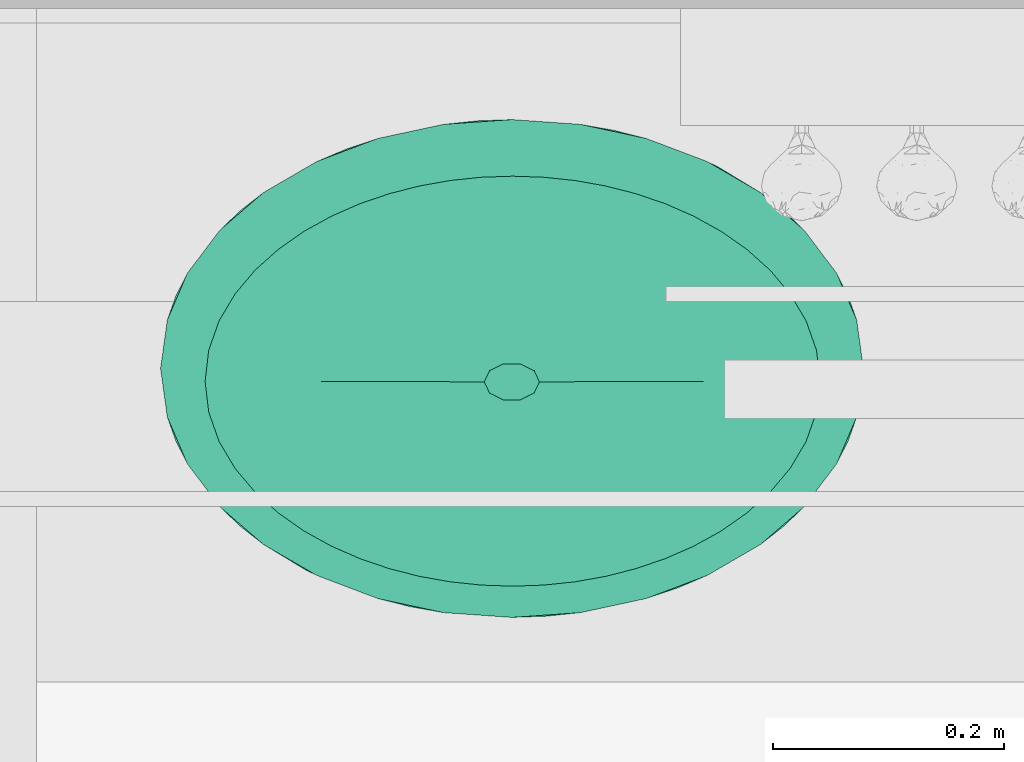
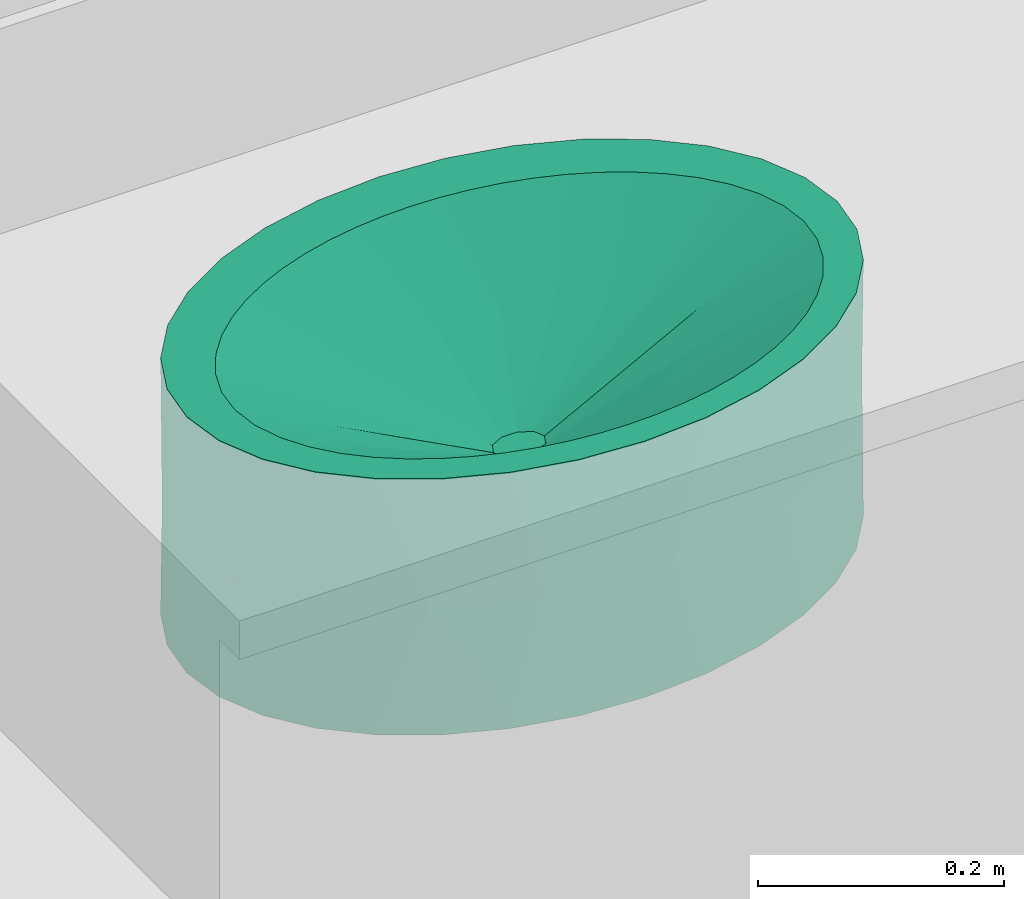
# One storey, part 54 of 81: 1 flow terminal.
"""IFC2X3 building model written with IfcOpenShell, lengths in feet."""

import ifcopenshell
import ifcopenshell.guid

model = None  # the IFC model being written
_history = None  # IfcOwnerHistory: only IFC2X3 demands one
_inside = {}  # id of a spatial element -> (the spatial element, [elements in it])
_under = {}  # id of a project, library or spatial element -> (it, [spatial elements below it])
_declared = {}  # id of a project -> (the project, [libraries it declares])
_typed = {}  # id of a type object -> (the type object, [elements of that type])
_made_of = {}  # id of a material, layer set ... -> (it, [elements and type objects made of it])


def new_model(schema):
    """Start an empty IFC model of exactly this schema.

    Asked for "IFC4X3", IfcOpenShell would pick the latest addendum, in which some entities
    have other attributes; the version numbers below select the first issue.
    IFC2X3 requires an IfcOwnerHistory on every rooted entity: one is made here for all.
    """
    global model, _history
    if schema == "IFC4X3":
        model = ifcopenshell.file(schema_version=(4, 3, 0, 0))
    else:
        model = ifcopenshell.file(schema=schema)
    _inside.clear()
    _under.clear()
    _declared.clear()
    _typed.clear()
    _made_of.clear()
    _history = None
    if model.schema == "IFC2X3":
        org = make("IfcOrganization", Name="unknown")
        user = make(
            "IfcPersonAndOrganization",
            ThePerson=make("IfcPerson", FamilyName="unknown"),
            TheOrganization=org,
        )
        app = make(
            "IfcApplication",
            ApplicationDeveloper=org,
            Version="unknown",
            ApplicationFullName="unknown",
            ApplicationIdentifier="unknown",
        )
        _history = make(
            "IfcOwnerHistory",
            OwningUser=user,
            OwningApplication=app,
            ChangeAction="ADDED",
            CreationDate=0,
        )
    return model


def make(cls, **values):
    """One entity of the class cls with the attributes given. An attribute that is None is left unset."""
    return model.create_entity(
        cls, **{name: value for name, value in values.items() if value is not None}
    )


def entity(cls, *values):
    """Any entity or typed value of the class cls, its attributes in the order of the schema. None: left unset."""
    e = model.create_entity(cls)
    for i, value in enumerate(values):
        if value is not None:
            e[i] = value
    return e


def rooted(cls, **values):
    """An entity with a GlobalId (a new one), such as an element, a storey or a relation."""
    return make(cls, GlobalId=ifcopenshell.guid.new(), OwnerHistory=_history, **values)


def si_unit(unit_type, name, prefix=None):
    """IfcSIUnit, for example si_unit("LENGTHUNIT", "METRE", prefix="MILLI")."""
    return make("IfcSIUnit", UnitType=unit_type, Prefix=prefix, Name=name)


def converted_unit(unit_type, name, factor, base, dimensions=None, offset=None):
    """IfcConversionBasedUnit, such as the inch: factor (a typed value) times the base unit."""
    return make(
        "IfcConversionBasedUnit"
        if offset is None
        else "IfcConversionBasedUnitWithOffset",
        ConversionOffset=offset,
        Dimensions=None
        if dimensions is None
        else entity("IfcDimensionalExponents", *dimensions),
        UnitType=unit_type,
        Name=name,
        ConversionFactor=make(
            "IfcMeasureWithUnit", ValueComponent=factor, UnitComponent=base
        ),
    )


def derived_unit(unit_type, elements):
    """IfcDerivedUnit: a product of units, each with its exponent."""
    return make(
        "IfcDerivedUnit",
        Elements=[
            make("IfcDerivedUnitElement", Unit=unit, Exponent=power)
            for unit, power in elements
        ],
        UnitType=unit_type,
    )


def assignment(units):
    """IfcUnitAssignment: the units of a project."""
    return None if units is None else make("IfcUnitAssignment", Units=units)


def point(xyz):
    """IfcCartesianPoint."""
    return None if xyz is None else make("IfcCartesianPoint", Coordinates=xyz)


def direction(xyz):
    """IfcDirection."""
    return None if xyz is None else make("IfcDirection", DirectionRatios=xyz)


def frame(location, z_axis=None, x_axis=None):
    """IfcAxis2Placement3D, a coordinate frame: its origin and axes. An axis left out is left unset."""
    return make(
        "IfcAxis2Placement3D",
        Location=point(location),
        Axis=direction(z_axis),
        RefDirection=direction(x_axis),
    )


def origin():
    """The frame at (0, 0, 0) with its axes left unset."""
    return frame((0.0, 0.0, 0.0))


def place(relative_to, where):
    """IfcLocalPlacement: puts the frame where relative to a parent placement (None: the world)."""
    return make(
        "IfcLocalPlacement", PlacementRelTo=relative_to, RelativePlacement=where
    )


def context(
    kind, dimensions, precision=None, world=None, true_north=None, identifier=None
):
    """IfcGeometricRepresentationContext, for example the 3D "Model" context."""
    return make(
        "IfcGeometricRepresentationContext",
        ContextIdentifier=identifier,
        ContextType=kind,
        CoordinateSpaceDimension=dimensions,
        Precision=precision,
        WorldCoordinateSystem=world,
        TrueNorth=true_north,
    )


def subcontext(parent, identifier, kind, view, scale=None):
    """IfcGeometricRepresentationSubContext, for example "Body" below "Model"."""
    return make(
        "IfcGeometricRepresentationSubContext",
        ContextIdentifier=identifier,
        ContextType=kind,
        ParentContext=parent,
        TargetScale=scale,
        TargetView=view,
    )


def project(units=None, contexts=None):
    """IfcProject with its units and contexts."""
    return rooted(
        "IfcProject",
        Name="project",
        RepresentationContexts=contexts,
        UnitsInContext=assignment(units),
    )


def spatial(cls, under=None, at=None, **own):
    """A site, building, storey or space (cls), placed at a placement, below another one or the project."""
    s = rooted(cls, ObjectPlacement=at, **own)
    if under is not None:
        _under.setdefault(under.id(), (under, []))[1].append(s)
    return s


def faces_of(points, faces, orient=None, outer=None):
    """IfcFace entities. A face is a list of loops; a loop is a list of indices into points, from 0.

    orient and outer hold one flag for each loop. By default every Orientation is true, the
    first loop of a face is its IfcFaceOuterBound and the others are IfcFaceBound.
    """
    made = []
    for i, loops in enumerate(faces):
        bounds = []
        for j, loop in enumerate(loops):
            is_outer = j == 0 if outer is None else outer[i][j]
            bounds.append(
                make(
                    "IfcFaceOuterBound" if is_outer else "IfcFaceBound",
                    Bound=make("IfcPolyLoop", Polygon=[points[k] for k in loop]),
                    Orientation=True if orient is None else orient[i][j],
                )
            )
        made.append(make("IfcFace", Bounds=bounds))
    return made


def faceted_brep(points, faces, orient=None, outer=None, voids=None):
    """IfcFacetedBrep: a solid bounded by flat faces; with voids (closed shells), ...WithVoids."""
    shared = [point(p) for p in points]
    hull = make("IfcClosedShell", CfsFaces=faces_of(shared, faces, orient, outer))
    if voids is None:
        return make("IfcFacetedBrep", Outer=hull)
    return make(
        "IfcFacetedBrepWithVoids",
        Outer=hull,
        Voids=[
            make(cls, CfsFaces=faces_of(shared, fs, o, b)) for cls, fs, o, b in voids
        ],
    )


def shape(context_of_items, identifier, shape_type, items):
    """IfcShapeRepresentation: the items that make up one representation, for example the "Body"."""
    return make(
        "IfcShapeRepresentation",
        ContextOfItems=context_of_items,
        RepresentationIdentifier=identifier,
        RepresentationType=shape_type,
        Items=items,
    )


def source(mapping_origin, context_of_items, identifier, shape_type, items):
    """IfcRepresentationMap: a shape defined once, which mapped items show again and again."""
    return make(
        "IfcRepresentationMap",
        MappingOrigin=mapping_origin,
        MappedRepresentation=shape(context_of_items, identifier, shape_type, items),
    )


def transform(
    local_origin,
    x_axis=None,
    y_axis=None,
    z_axis=None,
    scale=None,
    scale2=None,
    scale3=None,
    uniform=True,
):
    """IfcCartesianTransformationOperator3D, or its non-uniform kind. x_axis, y_axis, z_axis: its Axis1, 2, 3."""
    if uniform:
        return make(
            "IfcCartesianTransformationOperator3D",
            Axis1=direction(x_axis),
            Axis2=direction(y_axis),
            LocalOrigin=point(local_origin),
            Scale=scale,
            Axis3=direction(z_axis),
        )
    return make(
        "IfcCartesianTransformationOperator3DnonUniform",
        Axis1=direction(x_axis),
        Axis2=direction(y_axis),
        LocalOrigin=point(local_origin),
        Scale=scale,
        Axis3=direction(z_axis),
        Scale2=scale2,
        Scale3=scale3,
    )


def mapped(mapping_source, mapping_target):
    """IfcMappedItem: shows the shape of a source again, moved by a transform."""
    return make(
        "IfcMappedItem", MappingSource=mapping_source, MappingTarget=mapping_target
    )


def material(Name=None, Category=None):
    """IfcMaterial."""
    return make("IfcMaterial", Name=Name, Category=Category)


def made_of(thing, what):
    """Note that an element or type object is made of a material, layer set ...; save() writes the relation."""
    if what is not None:
        _made_of.setdefault(what.id(), (what, []))[1].append(thing)
    return thing


def type_object(cls, material=None, **own):
    """A type object (cls), such as IfcWallType, which elements share."""
    return made_of(rooted(cls, **own), material)


def type_shapes(of_type, sources):
    """Give a type object the sources (RepresentationMaps) that its elements show as mapped items."""
    of_type.RepresentationMaps = sources


def element(
    cls,
    number,
    at=None,
    inside=None,
    cuts=None,
    type_object=None,
    material=None,
    context=None,
    identifier="Body",
    shape_type=None,
    held_by="IfcProductDefinitionShape",
    body=None,
    shapes=None,
    **own,
):
    """One element of the class cls, such as IfcWall. Its Tag is "e" and its number.

    at: its placement. inside: the storey or other place that contains it. cuts: it is an
    opening in that element (IfcRelVoidsElement). A single representation is given by context,
    identifier, shape_type and body (its items); several are given by shapes. held_by: the class
    of the entity that holds the representations. save() writes the other relations.
    """
    e = rooted(cls, Tag="e%d" % number, ObjectPlacement=at, **own)
    if body is not None:
        shapes = [shape(context, identifier, shape_type, body)]
    if shapes is not None:
        e.Representation = make(held_by, Representations=shapes)
    if inside is not None:
        _inside.setdefault(inside.id(), (inside, []))[1].append(e)
    if cuts is not None:
        rooted(
            "IfcRelVoidsElement", RelatingBuildingElement=cuts, RelatedOpeningElement=e
        )
    if type_object is not None:
        _typed.setdefault(type_object.id(), (type_object, []))[1].append(e)
    return made_of(e, material)


def aggregate(whole, parts):
    """IfcRelAggregates: a whole, such as a stair, and the parts it consists of."""
    return rooted("IfcRelAggregates", RelatingObject=whole, RelatedObjects=parts)


def save(model, path):
    """Write the relations noted so far, then the file.

    IfcRelAggregates (storeys below a building ...), IfcRelContainedInSpatialStructure (elements
    in a storey), IfcRelDefinesByType, IfcRelAssociatesMaterial and IfcRelDeclares: one each for
    every whole, place, type object, material and project.
    """
    for whole, parts in _under.values():
        aggregate(whole, parts)
    for where, things in _inside.values():
        rooted(
            "IfcRelContainedInSpatialStructure",
            RelatedElements=things,
            RelatingStructure=where,
        )
    for kind, things in _typed.values():
        rooted("IfcRelDefinesByType", RelatedObjects=things, RelatingType=kind)
    for what, things in _made_of.values():
        rooted("IfcRelAssociatesMaterial", RelatedObjects=things, RelatingMaterial=what)
    for by, libraries in _declared.values():
        rooted("IfcRelDeclares", RelatingContext=by, RelatedDefinitions=libraries)
    model.write(path)


model = new_model("IFC2X3")

# Units and contexts
model_context = context("Model", 3, precision=0.0001, world=origin(), true_north=direction((6.12303176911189e-17, 1.0)))
body_context = subcontext(model_context, "Body", "Model", "MODEL_VIEW")
ifc_project = project(units=[converted_unit("LENGTHUNIT", "FOOT", entity("IfcRatioMeasure", 0.3048), si_unit("LENGTHUNIT", "METRE"), dimensions=[1, 0, 0, 0, 0, 0, 0]), converted_unit("AREAUNIT", "SQUARE FOOT", entity("IfcRatioMeasure", 0.09290304), si_unit("AREAUNIT", "SQUARE_METRE"), dimensions=[2, 0, 0, 0, 0, 0, 0]), converted_unit("VOLUMEUNIT", "CUBIC FOOT", entity("IfcRatioMeasure", 0.028316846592), si_unit("VOLUMEUNIT", "CUBIC_METRE"), dimensions=[3, 0, 0, 0, 0, 0, 0]), converted_unit("PLANEANGLEUNIT", "DEGREE", entity("IfcRatioMeasure", 0.0174532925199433), si_unit("PLANEANGLEUNIT", "RADIAN"), dimensions=[0, 0, 0, 0, 0, 0, 0]), si_unit("MASSUNIT", "GRAM", prefix="KILO"), derived_unit("MASSDENSITYUNIT", [(si_unit("MASSUNIT", "GRAM", prefix="KILO"), 1), (si_unit("LENGTHUNIT", "METRE"), -3)]), derived_unit("MOMENTOFINERTIAUNIT", [(si_unit("LENGTHUNIT", "METRE"), 4)]), si_unit("TIMEUNIT", "SECOND"), si_unit("FREQUENCYUNIT", "HERTZ"), si_unit("THERMODYNAMICTEMPERATUREUNIT", "DEGREE_CELSIUS"), derived_unit("THERMALTRANSMITTANCEUNIT", [(si_unit("MASSUNIT", "GRAM", prefix="KILO"), 1), (si_unit("THERMODYNAMICTEMPERATUREUNIT", "KELVIN"), -1), (si_unit("TIMEUNIT", "SECOND"), -3)]), derived_unit("VOLUMETRICFLOWRATEUNIT", [(si_unit("LENGTHUNIT", "METRE"), 3), (si_unit("TIMEUNIT", "SECOND"), -1)]), si_unit("ELECTRICCURRENTUNIT", "AMPERE"), si_unit("ELECTRICVOLTAGEUNIT", "VOLT"), si_unit("POWERUNIT", "WATT"), si_unit("FORCEUNIT", "NEWTON"), si_unit("ILLUMINANCEUNIT", "LUX"), si_unit("LUMINOUSFLUXUNIT", "LUMEN"), si_unit("LUMINOUSINTENSITYUNIT", "CANDELA"), derived_unit("USERDEFINED", [(si_unit("MASSUNIT", "GRAM", prefix="KILO"), -1), (si_unit("LENGTHUNIT", "METRE"), -2), (si_unit("TIMEUNIT", "SECOND"), 3), (si_unit("LUMINOUSFLUXUNIT", "LUMEN"), 1)]), derived_unit("LINEARVELOCITYUNIT", [(si_unit("LENGTHUNIT", "METRE"), 1), (si_unit("TIMEUNIT", "SECOND"), -1)]), si_unit("PRESSUREUNIT", "PASCAL"), derived_unit("USERDEFINED", [(si_unit("LENGTHUNIT", "METRE"), -2), (si_unit("MASSUNIT", "GRAM", prefix="KILO"), 1), (si_unit("TIMEUNIT", "SECOND"), -2)]), derived_unit("LINEARFORCEUNIT", [(si_unit("MASSUNIT", "GRAM", prefix="KILO"), 1), (si_unit("LENGTHUNIT", "METRE"), 1), (si_unit("TIMEUNIT", "SECOND"), -2), (si_unit("LENGTHUNIT", "METRE"), -1)]), derived_unit("PLANARFORCEUNIT", [(si_unit("MASSUNIT", "GRAM", prefix="KILO"), 1), (si_unit("LENGTHUNIT", "METRE"), 1), (si_unit("TIMEUNIT", "SECOND"), -2), (si_unit("LENGTHUNIT", "METRE"), -2)])], contexts=[model_context])

# Site, building, storey
site_placement = place(None, origin())
site = spatial("IfcSite", under=ifc_project, at=site_placement, Name="Default", CompositionType="ELEMENT")
building_placement = place(site_placement, origin())
building = spatial("IfcBuilding", under=site, at=building_placement, CompositionType="ELEMENT")
storey_placement = place(building_placement, origin())
storey = spatial("IfcBuildingStorey", under=building, at=storey_placement, Name="First floor", CompositionType="ELEMENT", Elevation=0.0)

# Flow terminal
ifc_material = material(Name="Default New Material")
distribution_element_type = type_object("IfcDistributionElementType", Name="Plumbing Fixtures 2:Plumbing Fixtures 2", material=ifc_material)
shared_shape = source(origin(), body_context, "Body", "Brep", [
    faceted_brep([(0.62255040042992, 1.36798183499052, 0.0), (0.810143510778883, 1.40829007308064, 0.0), (1.00523383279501, 1.42190049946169, 0.0), (1.20032415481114, 1.40829007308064, 0.0), (1.3879172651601, 1.36798183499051, 0.0), (1.56080406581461, 1.30252480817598, 0.0), (1.71234061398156, 1.21443446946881, 0.0), (1.83670344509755, 1.10709608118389, 0.0), (1.92911336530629, 0.984634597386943, 0.0), (1.98601911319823, 0.851756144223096, 0.0), (2.005233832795, 0.713567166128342, 0.0), (1.98601911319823, 0.575378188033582, 0.0), (1.92911336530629, 0.442499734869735, 0.0), (1.83670344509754, 0.320038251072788, 0.0), (1.71234061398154, 0.212699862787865, 0.0), (1.5608040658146, 0.124609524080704, 0.0), (1.38791726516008, 0.0591524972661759, 0.0), (1.20032415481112, 0.0188442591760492, 0.0), (1.00523383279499, 0.00523383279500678, 0.0), (0.810143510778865, 0.0188442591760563, 0.0), (0.622550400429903, 0.059152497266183, 0.0), (0.449663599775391, 0.124609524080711, 0.0), (0.298127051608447, 0.212699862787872, 0.0), (0.17376422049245, 0.320038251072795, 0.0), (0.0813543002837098, 0.442499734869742, 0.0), (0.0244485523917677, 0.575378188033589, 0.0), (0.00523383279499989, 0.71356716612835, 0.0), (0.0244485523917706, 0.85175614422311, 0.0), (0.0813543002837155, 0.984634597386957, 0.0), (0.173764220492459, 1.1070960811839, 0.0), (0.298127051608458, 1.21443446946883, 0.0), (0.449663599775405, 1.30252480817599, 0.0), (0.62255040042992, 1.36798183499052, 0.833333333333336), (0.449663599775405, 1.30252480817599, 0.833333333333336), (0.572233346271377, 1.18240521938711, 0.833333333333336), (0.656180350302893, 1.21102165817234, 0.833333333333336), (0.742212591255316, 1.23298075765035, 0.833333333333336), (0.810143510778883, 1.40829007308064, 0.833333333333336), (0.490754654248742, 1.14668263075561, 0.833333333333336), (0.413002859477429, 1.10354624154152, 0.833333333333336), (0.298127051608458, 1.21443446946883, 0.833333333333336), (0.340224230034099, 1.05256798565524, 0.833333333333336), (0.173764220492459, 1.1070960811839, 0.833333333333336), (0.274102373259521, 0.993305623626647, 0.833333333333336), (0.216961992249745, 0.925488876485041, 0.833333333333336), (0.0813543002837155, 0.984634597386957, 0.833333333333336), (0.171783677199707, 0.849218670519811, 0.833333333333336), (0.0244485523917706, 0.85175614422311, 0.833333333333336), (0.142233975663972, 0.765467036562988, 0.833333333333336), (0.005233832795, 0.71356716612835, 0.833333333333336), (0.131922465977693, 0.677509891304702, 0.833333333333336), (0.0244485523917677, 0.575378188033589, 0.833333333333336), (0.142234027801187, 0.589552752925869, 0.833333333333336), (0.0813543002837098, 0.442499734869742, 0.833333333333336), (0.171783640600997, 0.505801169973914, 0.833333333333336), (0.216962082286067, 0.429530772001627, 0.833333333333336), (0.17376422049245, 0.320038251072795, 0.833333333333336), (0.274102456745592, 0.361714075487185, 0.833333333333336), (0.298127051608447, 0.212699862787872, 0.833333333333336), (0.340224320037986, 0.302451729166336, 0.833333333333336), (0.413002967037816, 0.251473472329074, 0.833333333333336), (0.449663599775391, 0.124609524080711, 0.833333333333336), (0.490754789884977, 0.208337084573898, 0.833333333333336), (0.572233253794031, 0.172614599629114, 0.833333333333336), (0.622550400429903, 0.059152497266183, 0.833333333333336), (0.656180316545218, 0.143998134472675, 0.833333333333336), (0.742212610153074, 0.122039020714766, 0.833333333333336), (0.810143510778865, 0.0188442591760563, 0.833333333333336), (0.829716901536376, 0.106501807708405, 0.833333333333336), (0.91813413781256, 0.0972510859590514, 0.833333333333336), (1.00523383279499, 0.00523383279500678, 0.833333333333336), (1.00692896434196, 0.0941765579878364, 0.833333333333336), (1.09574238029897, 0.097253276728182, 0.833333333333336), (1.20032415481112, 0.0188442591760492, 0.833333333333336), (1.18414574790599, 0.106504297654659, 0.833333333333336), (1.27161446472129, 0.122035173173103, 0.833333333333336), (1.38791726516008, 0.0591524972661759, 0.833333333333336), (1.35761304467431, 0.143982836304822, 0.833333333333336), (1.44167917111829, 0.172640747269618, 0.833333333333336), (1.5608040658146, 0.124609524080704, 0.833333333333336), (1.52312085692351, 0.208352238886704, 0.833333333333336), (1.60083738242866, 0.251470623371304, 0.833333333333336), (1.71234061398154, 0.212699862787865, 0.833333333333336), (1.67359255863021, 0.302429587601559, 0.833333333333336), (1.73968720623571, 0.361657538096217, 0.833333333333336), (1.83670344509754, 0.320038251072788, 0.833333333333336), (1.79680016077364, 0.429415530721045, 0.833333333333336), (1.92911336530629, 0.442499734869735, 0.833333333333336), (1.84209760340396, 0.50587792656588, 0.833333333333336), (1.98601911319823, 0.575378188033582, 0.833333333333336), (1.87161126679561, 0.589554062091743, 0.833333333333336), (1.88192246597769, 0.677509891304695, 0.833333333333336), (2.005233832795, 0.713567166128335, 0.833333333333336), (1.87161121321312, 0.765465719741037, 0.833333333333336), (1.98601911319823, 0.851756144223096, 0.833333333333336), (1.8420976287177, 0.849141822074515, 0.833333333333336), (1.92911336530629, 0.984634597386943, 0.833333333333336), (1.79680004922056, 0.925604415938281, 0.833333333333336), (1.83670344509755, 1.10709608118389, 0.833333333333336), (1.73968710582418, 0.993362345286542, 0.833333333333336), (1.6735924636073, 1.05259026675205, 0.833333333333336), (1.71234061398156, 1.21443446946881, 0.833333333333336), (1.60083728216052, 1.10354922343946, 0.833333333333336), (1.52312073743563, 1.14666760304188, 0.833333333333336), (1.56080406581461, 1.30252480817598, 0.833333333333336), (1.44167902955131, 1.18237908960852, 0.833333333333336), (1.3879172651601, 1.36798183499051, 0.833333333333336), (1.35761309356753, 1.21103693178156, 0.833333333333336), (1.27161446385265, 1.23298460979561, 0.833333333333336), (1.20032415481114, 1.40829007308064, 0.833333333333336), (1.18414571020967, 1.24851549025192, 0.833333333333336), (1.09574232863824, 1.25776650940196, 0.833333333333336), (1.00523383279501, 1.42190049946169, 0.833333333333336), (0.91813407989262, 1.2577686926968, 0.833333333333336), (1.00692892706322, 1.26084322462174, 0.833333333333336), (0.829716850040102, 1.24851796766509, 0.833333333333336), (0.005233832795, 0.71356716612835, 0.40450545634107), (0.00523383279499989, 0.71356716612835, 0.416666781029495), (0.232223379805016, 1.16292907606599, 0.416666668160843), (0.0482934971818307, 0.919185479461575, 0.416666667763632), (1.96217416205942, 0.919185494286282, 0.416666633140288), (2.005233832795, 0.713567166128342, 0.40450545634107), (0.533837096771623, 1.33826139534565, 0.416666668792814), (1.77824430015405, 1.16292906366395, 0.416666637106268), (1.29551851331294, 1.39139990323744, 0.416666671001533), (1.59500312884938, 1.2855971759, 0.416666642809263), (0.907216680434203, 1.41848968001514, 0.416666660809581), (2.005233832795, 0.713567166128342, 0.416666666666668), (1.77824428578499, 0.264205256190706, 0.416666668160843), (1.96217416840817, 0.507948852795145, 0.416666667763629), (0.0482935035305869, 0.507948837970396, 0.416666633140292), (1.47663056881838, 0.088872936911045, 0.416666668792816), (0.232223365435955, 0.264205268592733, 0.416666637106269), (0.714949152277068, 0.0357344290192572, 0.416666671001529), (0.415464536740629, 0.141537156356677, 0.416666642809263), (1.1032509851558, 0.00864465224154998, 0.416666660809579), (0.980543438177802, 0.726801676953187, 0.416666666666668), (0.960916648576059, 0.717028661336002, 0.416666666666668), (0.941289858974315, 0.70725564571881, 0.416666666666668), (0.933793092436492, 0.691442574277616, 0.416666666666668), (0.926296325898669, 0.675629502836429, 0.416666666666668), (0.933793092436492, 0.659816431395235, 0.416666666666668), (0.941289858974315, 0.644003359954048, 0.416666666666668), (0.960916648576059, 0.634230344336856, 0.416666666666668), (0.980543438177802, 0.624457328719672, 0.416666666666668), (1.00480348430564, 0.624457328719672, 0.416666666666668), (1.02906353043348, 0.624457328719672, 0.416666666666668), (1.04869032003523, 0.634230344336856, 0.416666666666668), (1.06831710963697, 0.644003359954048, 0.416666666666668), (1.07581387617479, 0.659816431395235, 0.416666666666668), (1.08331064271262, 0.675629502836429, 0.416666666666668), (1.07581387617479, 0.691442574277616, 0.416666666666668), (1.06831710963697, 0.70725564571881, 0.416666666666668), (1.04869032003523, 0.717028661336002, 0.416666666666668), (1.02906353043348, 0.726801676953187, 0.416666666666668), (1.00480348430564, 0.726801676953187, 0.416666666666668), (1.210263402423, 0.404423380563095, 0.614292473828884), (0.886430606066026, 0.370374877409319, 0.623445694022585), (1.07424285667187, 0.378437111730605, 0.611667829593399), (0.74894539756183, 0.411698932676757, 0.623214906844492), (1.33036610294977, 0.468617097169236, 0.61140968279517), (0.621909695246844, 0.485676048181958, 0.626642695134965), (1.44762968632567, 0.561563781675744, 0.623997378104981), (0.562221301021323, 0.564349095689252, 0.624112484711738), (1.57828707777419, 0.676794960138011, 0.674915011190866), (0.43394633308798, 0.676794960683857, 0.674915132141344), (0.433284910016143, 0.67679652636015, 0.675262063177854), (1.57895216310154, 0.676796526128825, 0.675262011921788), (0.801361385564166, 0.94861756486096, 0.614289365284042), (1.12527864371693, 0.982748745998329, 0.623444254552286), (0.937358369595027, 0.974590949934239, 0.611673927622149), (1.26279374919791, 0.94141818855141, 0.623219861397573), (0.68121850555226, 0.884389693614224, 0.611405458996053), (1.3897973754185, 0.867493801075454, 0.626635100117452), (0.564104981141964, 0.791548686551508, 0.623982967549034), (1.44950876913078, 0.788802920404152, 0.62412469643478)], [[[0, 1, 2, 3, 4, 5, 6, 7, 8, 9, 10, 11, 12, 13, 14, 15, 16, 17, 18, 19, 20, 21, 22, 23, 24, 25, 26, 27, 28, 29, 30, 31]], [[32, 33, 34]], [[34, 35, 32]], [[32, 35, 36]], [[37, 32, 36]], [[38, 34, 33]], [[33, 39, 38]], [[39, 33, 40]], [[40, 41, 39]], [[40, 42, 41]], [[43, 41, 42]], [[44, 43, 42]], [[42, 45, 44]], [[45, 46, 44]], [[45, 47, 46]], [[47, 48, 46]], [[48, 47, 49]], [[48, 49, 50]], [[50, 49, 51]], [[52, 50, 51]], [[53, 52, 51]], [[53, 54, 52]], [[54, 53, 55]], [[55, 53, 56]], [[57, 55, 56]], [[56, 58, 57]], [[57, 58, 59]], [[59, 58, 60]], [[61, 60, 58]], [[60, 61, 62]], [[61, 63, 62]], [[63, 61, 64]], [[63, 64, 65]], [[65, 64, 66]], [[64, 67, 66]], [[68, 66, 67]], [[67, 69, 68]], [[69, 67, 70]], [[69, 70, 71]], [[71, 70, 72]], [[72, 70, 73]], [[72, 73, 74]], [[75, 74, 73]], [[75, 73, 76]], [[76, 77, 75]], [[76, 78, 77]], [[76, 79, 78]], [[79, 80, 78]], [[79, 81, 80]], [[82, 81, 79]], [[82, 83, 81]], [[83, 82, 84]], [[84, 82, 85]], [[86, 84, 85]], [[86, 85, 87]], [[87, 88, 86]], [[89, 88, 87]], [[88, 89, 90]], [[91, 90, 89]], [[91, 89, 92]], [[91, 92, 93]], [[93, 92, 94]], [[93, 94, 95]], [[96, 95, 94]], [[97, 95, 96]], [[96, 98, 97]], [[99, 97, 98]], [[100, 99, 98]], [[100, 98, 101]], [[100, 101, 102]], [[102, 101, 103]], [[101, 104, 103]], [[103, 104, 105]], [[104, 106, 105]], [[105, 106, 107]], [[106, 108, 107]], [[109, 108, 106]], [[110, 108, 109]], [[111, 110, 109]], [[112, 111, 109]], [[112, 37, 113]], [[112, 113, 114]], [[111, 112, 114]], [[36, 115, 37]], [[115, 113, 37]], [[27, 26, 116, 117]], [[117, 49, 47]], [[118, 119, 45, 42]], [[120, 94, 121]], [[40, 33, 122, 118]], [[123, 101, 98]], [[112, 109, 124]], [[124, 109, 106]], [[106, 104, 125]], [[125, 124, 106]], [[126, 3, 2]], [[101, 123, 125]], [[96, 120, 123, 98]], [[112, 124, 126]], [[120, 8, 7, 123]], [[121, 10, 9]], [[94, 92, 127, 121]], [[120, 96, 94]], [[121, 9, 120]], [[5, 4, 125]], [[6, 125, 123]], [[7, 6, 123]], [[28, 119, 118, 29]], [[0, 122, 1]], [[125, 4, 124]], [[125, 104, 101]], [[124, 4, 3]], [[31, 30, 118, 122]], [[126, 124, 3]], [[33, 32, 122]], [[126, 122, 32]], [[119, 47, 45]], [[42, 40, 118]], [[32, 37, 126]], [[1, 126, 2]], [[119, 117, 47]], [[122, 126, 1]], [[31, 122, 0]], [[8, 120, 9]], [[30, 29, 118]], [[27, 119, 28]], [[27, 117, 119]], [[37, 112, 126]], [[5, 125, 6]], [[11, 10, 121, 127]], [[127, 92, 89]], [[128, 129, 87, 85]], [[130, 51, 116]], [[82, 79, 131, 128]], [[132, 58, 56]], [[70, 67, 133]], [[133, 67, 64]], [[64, 61, 134]], [[134, 133, 64]], [[135, 19, 18]], [[58, 132, 134]], [[53, 130, 132, 56]], [[70, 133, 135]], [[130, 24, 23, 132]], [[116, 26, 25]], [[51, 49, 117, 116]], [[130, 53, 51]], [[116, 25, 130]], [[21, 20, 134]], [[22, 134, 132]], [[23, 22, 132]], [[12, 129, 128, 13]], [[16, 131, 17]], [[134, 20, 133]], [[134, 61, 58]], [[133, 20, 19]], [[15, 14, 128, 131]], [[135, 133, 19]], [[79, 76, 131]], [[135, 131, 76]], [[129, 89, 87]], [[85, 82, 128]], [[76, 73, 135]], [[17, 135, 18]], [[129, 127, 89]], [[131, 135, 17]], [[15, 131, 16]], [[24, 130, 25]], [[14, 13, 128]], [[11, 129, 12]], [[11, 127, 129]], [[73, 70, 135]], [[21, 134, 22]], [[136, 137, 138, 139, 140, 141, 142, 143, 144, 145, 146, 147, 148, 149, 150, 151, 152, 153, 154, 155]], [[78, 80, 156]], [[145, 157, 158]], [[158, 156, 146]], [[157, 145, 144]], [[156, 75, 77]], [[156, 147, 146]], [[72, 158, 71]], [[157, 159, 65]], [[156, 158, 75]], [[156, 160, 147]], [[161, 59, 60]], [[143, 159, 144]], [[160, 148, 147]], [[71, 157, 69]], [[162, 88, 90]], [[158, 157, 71]], [[160, 84, 162]], [[52, 54, 163]], [[74, 158, 72]], [[90, 164, 162]], [[80, 81, 160]], [[83, 160, 81]], [[150, 149, 164]], [[160, 156, 80]], [[83, 84, 160]], [[160, 162, 148]], [[63, 159, 62]], [[161, 142, 163]], [[157, 68, 69]], [[161, 163, 55]], [[55, 163, 54]], [[143, 161, 159]], [[144, 159, 157]], [[57, 161, 55]], [[52, 165, 166, 50]], [[163, 165, 52]], [[141, 163, 142]], [[164, 149, 162]], [[90, 91, 167, 164]], [[163, 141, 165]], [[156, 77, 78]], [[66, 68, 157]], [[86, 88, 162]], [[66, 157, 65]], [[158, 146, 145]], [[62, 159, 60]], [[159, 161, 60]], [[162, 149, 148]], [[84, 86, 162]], [[59, 161, 57]], [[159, 63, 65]], [[74, 75, 158]], [[141, 140, 165]], [[143, 142, 161]], [[34, 38, 168]], [[155, 169, 170]], [[170, 168, 136]], [[169, 155, 154]], [[168, 36, 35]], [[168, 137, 136]], [[113, 170, 114]], [[169, 171, 107]], [[168, 170, 36]], [[168, 172, 137]], [[173, 100, 102]], [[153, 171, 154]], [[172, 138, 137]], [[114, 169, 111]], [[174, 46, 48]], [[170, 169, 114]], [[172, 43, 174]], [[93, 95, 175]], [[115, 170, 113]], [[48, 166, 174]], [[38, 39, 172]], [[41, 172, 39]], [[139, 166, 165, 140]], [[172, 168, 38]], [[41, 43, 172]], [[172, 174, 138]], [[105, 171, 103]], [[173, 152, 175]], [[169, 110, 111]], [[173, 175, 97]], [[97, 175, 95]], [[153, 173, 171]], [[154, 171, 169]], [[99, 173, 97]], [[167, 91, 93]], [[175, 167, 93]], [[151, 175, 152]], [[166, 139, 174]], [[48, 50, 166]], [[175, 151, 167]], [[168, 35, 34]], [[108, 110, 169]], [[44, 46, 174]], [[108, 169, 107]], [[170, 136, 155]], [[103, 171, 102]], [[171, 173, 102]], [[174, 139, 138]], [[43, 44, 174]], [[100, 173, 99]], [[171, 105, 107]], [[115, 36, 170]], [[151, 150, 164]], [[153, 152, 173]], [[151, 164, 167]]]),
])
type_shapes(distribution_element_type, [shared_shape])
flow_terminal_placement = place(storey_placement, frame((-0.0683890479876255, 45.7617717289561, 12.7083333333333)))
element("IfcFlowTerminal", 1, at=flow_terminal_placement, inside=storey, type_object=distribution_element_type, material=ifc_material, Name="Plumbing Fixtures 2:Plumbing Fixtures 2", ObjectType="Plumbing Fixtures 2:Plumbing Fixtures 2", context=body_context, shape_type="MappedRepresentation", body=[
    mapped(shared_shape, transform((0.0, 0.0, 0.0), scale=1.0)),
])

save(model, "model.ifc")
